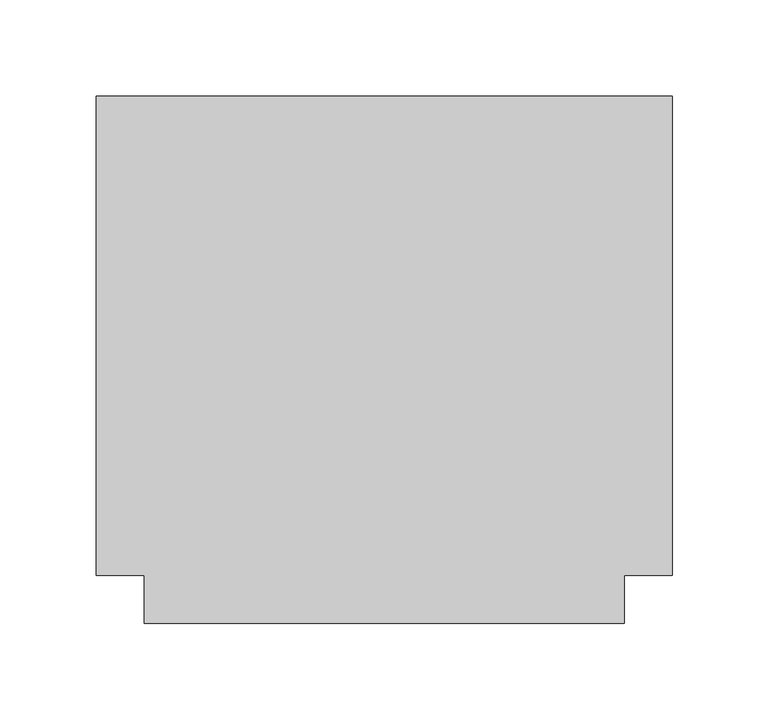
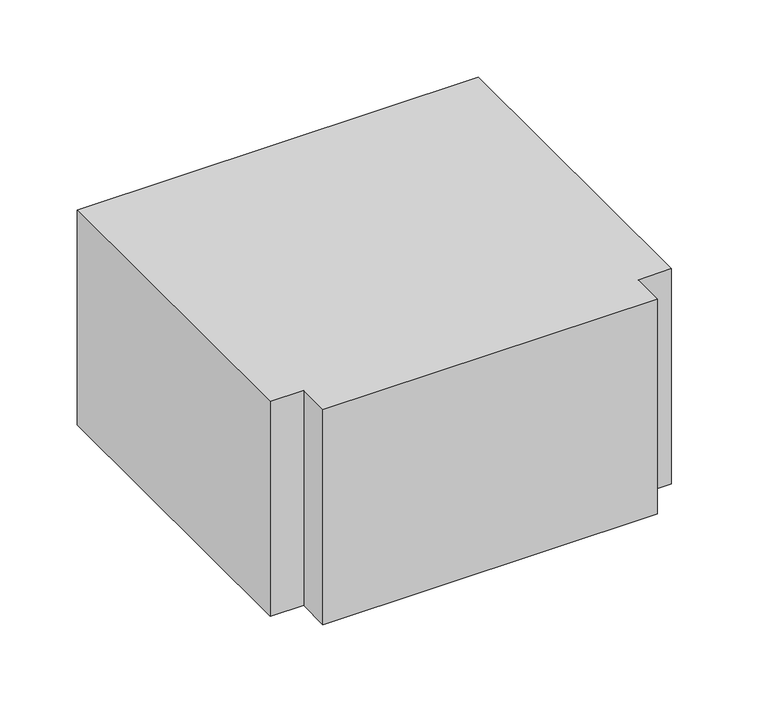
"""IFC4 building model written with IfcOpenShell, lengths in millimetres: duct fitting geometry, M_Te rectangular : Estándar."""

from ifc_helpers import new_model, si_unit, frame, origin, place, context, project, spatial, polyline, outline, extrude, source, transform, mapped, element, save


def duct_fitting_3b5ecfd3(model_context):
    return source(origin(), model_context, "Body", "SweptSolid", [
        extrude(outline(polyline([(-150.0, -125.0), (-150.0, 125.0), (150.0, 125.0), (150.0, -125.0), (125.0, -125.0), (125.0, -150.0), (-125.0, -150.0), (-125.0, -125.0), (-150.0, -125.0)])), frame((0.0, 0.0, -85.0), z_axis=(0.0, 0.0, 1.0), x_axis=(1.0, 0.0, 0.0)), (0.0, 0.0, 1.0), 170.0),
    ])


if __name__ == "__main__":
    model = new_model("IFC4")
    model_context = context("Model", 3, world=origin())
    ifc_project = project(units=[si_unit("LENGTHUNIT", "METRE", prefix="MILLI")], contexts=[model_context])
    site = spatial("IfcSite", under=ifc_project)
    building = spatial("IfcBuilding", under=site)
    placement = place(None, origin())
    duct_fitting_shape = duct_fitting_3b5ecfd3(model_context)
    element("IfcDuctFitting", 1, ObjectType="M_Te rectangular : Estándar", at=placement, inside=building, context=model_context, shape_type="MappedRepresentation", body=[
        mapped(duct_fitting_shape, transform((0.0, 0.0, 0.0), x_axis=(1.0, 0.0, 0.0), y_axis=(0.0, 1.0, 0.0), z_axis=(0.0, 0.0, 1.0))),
    ])
    save(model, "model.ifc")
